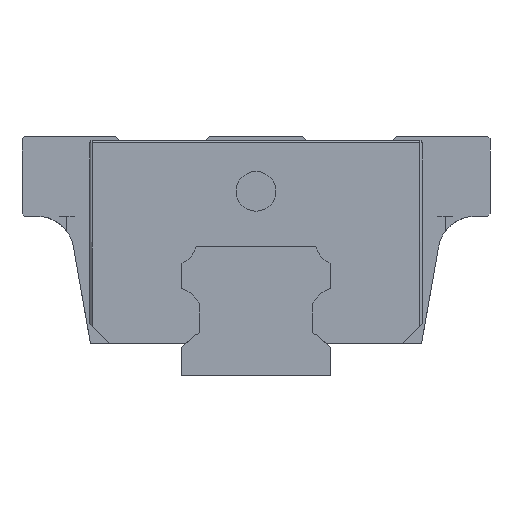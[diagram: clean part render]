
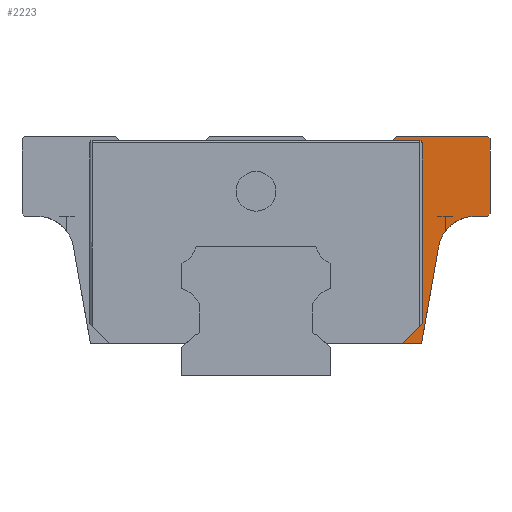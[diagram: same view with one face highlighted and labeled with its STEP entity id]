
A CAD part, left-side view. The second image highlights one B-rep face of the part: STEP entity #2223.
In plain terms, the highlighted planar face has unit normal (-1, 0, 0).
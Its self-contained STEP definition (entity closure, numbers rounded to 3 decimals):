
#18 = EDGE_LOOP ( 'NONE', ( #2985, #5926, #4635, #1695, #5968, #5238, #813, #5231, #3556, #534, #2093, #1875, #4736 ) ) ;
#209 = DIRECTION ( 'NONE',  ( 0., 0., 1. ) ) ;
#270 = LINE ( 'NONE', #1292, #6627 ) ;
#302 = DIRECTION ( 'NONE',  ( 0., 0., 1. ) ) ;
#371 = LINE ( 'NONE', #7058, #3625 ) ;
#534 = ORIENTED_EDGE ( 'NONE', *, *, #5914, .T. ) ;
#540 = DIRECTION ( 'NONE',  ( 0., 0., 1. ) ) ;
#640 = CARTESIAN_POINT ( 'NONE',  ( -19.75, -23.5, 23.765 ) ) ;
#665 = VECTOR ( 'NONE', #1503, 1000. ) ;
#740 = VERTEX_POINT ( 'NONE', #2507 ) ;
#751 = VERTEX_POINT ( 'NONE', #6444 ) ;
#812 = PLANE ( 'NONE',  #6141 ) ;
#813 = ORIENTED_EDGE ( 'NONE', *, *, #5044, .T. ) ;
#1048 = VERTEX_POINT ( 'NONE', #5688 ) ;
#1057 = CARTESIAN_POINT ( 'NONE',  ( -19.75, -22.022, 16. ) ) ;
#1079 = DIRECTION ( 'NONE',  ( 0., -0.707, 0.707 ) ) ;
#1136 = VERTEX_POINT ( 'NONE', #6137 ) ;
#1151 = LINE ( 'NONE', #2736, #5972 ) ;
#1166 = VECTOR ( 'NONE', #209, 1000. ) ;
#1262 = DIRECTION ( 'NONE',  ( 0., 0., 1. ) ) ;
#1292 = CARTESIAN_POINT ( 'NONE',  ( -19.75, -8.619, 3.2 ) ) ;
#1369 = CARTESIAN_POINT ( 'NONE',  ( -19.75, -23.5, 24. ) ) ;
#1431 = LINE ( 'NONE', #3675, #3746 ) ;
#1485 = CARTESIAN_POINT ( 'NONE',  ( -19.75, -14.1, 24. ) ) ;
#1503 = DIRECTION ( 'NONE',  ( 0., -0.707, 0.707 ) ) ;
#1539 = CARTESIAN_POINT ( 'NONE',  ( -19.75, -14.696, 3.2 ) ) ;
#1695 = ORIENTED_EDGE ( 'NONE', *, *, #2587, .T. ) ;
#1873 = CARTESIAN_POINT ( 'NONE',  ( -19.75, -6.712, 3.2 ) ) ;
#1875 = ORIENTED_EDGE ( 'NONE', *, *, #5369, .T. ) ;
#1882 = DIRECTION ( 'NONE',  ( 1., 0., 0. ) ) ;
#1987 = CARTESIAN_POINT ( 'NONE',  ( -19.75, -16.619, 3.2 ) ) ;
#2042 = CARTESIAN_POINT ( 'NONE',  ( -19.75, -16.619, 3.2 ) ) ;
#2093 = ORIENTED_EDGE ( 'NONE', *, *, #2716, .F. ) ;
#2223 = ADVANCED_FACE ( 'NONE', ( #6949 ), #812, .T. ) ;
#2330 = AXIS2_PLACEMENT_3D ( 'NONE', #2943, #1882, #1262 ) ;
#2340 = LINE ( 'NONE', #4614, #1166 ) ;
#2507 = CARTESIAN_POINT ( 'NONE',  ( -19.75, -18.329, 12.901 ) ) ;
#2574 = VECTOR ( 'NONE', #3608, 1000. ) ;
#2587 = EDGE_CURVE ( 'NONE', #740, #3348, #3539, .T. ) ;
#2683 = CARTESIAN_POINT ( 'NONE',  ( -19.75, -23.265, 16. ) ) ;
#2716 = EDGE_CURVE ( 'NONE', #1048, #4905, #7227, .T. ) ;
#2736 = CARTESIAN_POINT ( 'NONE',  ( -19.75, -8.589, 1.324 ) ) ;
#2754 = DIRECTION ( 'NONE',  ( 0., -0.174, 0.985 ) ) ;
#2766 = LINE ( 'NONE', #4385, #6343 ) ;
#2943 = CARTESIAN_POINT ( 'NONE',  ( -19.75, -16.466, 23.355 ) ) ;
#2944 = DIRECTION ( 'NONE',  ( 0., 0., 1. ) ) ;
#2985 = ORIENTED_EDGE ( 'NONE', *, *, #3347, .F. ) ;
#3166 = VERTEX_POINT ( 'NONE', #1987 ) ;
#3270 = VERTEX_POINT ( 'NONE', #2683 ) ;
#3284 = CARTESIAN_POINT ( 'NONE',  ( -19.75, -23.265, 24. ) ) ;
#3347 = EDGE_CURVE ( 'NONE', #3693, #1136, #3854, .T. ) ;
#3348 = VERTEX_POINT ( 'NONE', #1057 ) ;
#3492 = DIRECTION ( 'NONE',  ( 0., -1., 0. ) ) ;
#3539 = CIRCLE ( 'NONE', #3667, 3.75 ) ;
#3556 = ORIENTED_EDGE ( 'NONE', *, *, #5653, .T. ) ;
#3608 = DIRECTION ( 'NONE',  ( 0., 1., 0. ) ) ;
#3625 = VECTOR ( 'NONE', #3747, 1000. ) ;
#3667 = AXIS2_PLACEMENT_3D ( 'NONE', #5560, #4464, #540 ) ;
#3675 = CARTESIAN_POINT ( 'NONE',  ( -19.75, -14.1, 24. ) ) ;
#3693 = VERTEX_POINT ( 'NONE', #4280 ) ;
#3746 = VECTOR ( 'NONE', #6868, 1000. ) ;
#3747 = DIRECTION ( 'NONE',  ( 0., -1., 0. ) ) ;
#3854 = LINE ( 'NONE', #1539, #665 ) ;
#3913 = CARTESIAN_POINT ( 'NONE',  ( -19.75, -16.971, 23.59 ) ) ;
#3946 = VERTEX_POINT ( 'NONE', #1485 ) ;
#4157 = LINE ( 'NONE', #1369, #2574 ) ;
#4280 = CARTESIAN_POINT ( 'NONE',  ( -19.75, -14.696, 3.2 ) ) ;
#4299 = EDGE_CURVE ( 'NONE', #3693, #3166, #270, .T. ) ;
#4321 = CIRCLE ( 'NONE', #2330, 0.235 ) ;
#4385 = CARTESIAN_POINT ( 'NONE',  ( -19.75, -25.389, 21.876 ) ) ;
#4464 = DIRECTION ( 'NONE',  ( 1., 0., 0. ) ) ;
#4572 = LINE ( 'NONE', #4675, #5966 ) ;
#4614 = CARTESIAN_POINT ( 'NONE',  ( -19.75, -23.5, 16. ) ) ;
#4635 = ORIENTED_EDGE ( 'NONE', *, *, #5534, .T. ) ;
#4675 = CARTESIAN_POINT ( 'NONE',  ( -19.75, -16.701, 5.2 ) ) ;
#4736 = ORIENTED_EDGE ( 'NONE', *, *, #6642, .F. ) ;
#4771 = DIRECTION ( 'NONE',  ( -1., 0., 0. ) ) ;
#4905 = VERTEX_POINT ( 'NONE', #6199 ) ;
#4974 = VERTEX_POINT ( 'NONE', #5713 ) ;
#5044 = EDGE_CURVE ( 'NONE', #751, #6536, #2340, .T. ) ;
#5133 = VECTOR ( 'NONE', #2754, 1000. ) ;
#5231 = ORIENTED_EDGE ( 'NONE', *, *, #7125, .T. ) ;
#5238 = ORIENTED_EDGE ( 'NONE', *, *, #6504, .T. ) ;
#5245 = VERTEX_POINT ( 'NONE', #3284 ) ;
#5369 = EDGE_CURVE ( 'NONE', #1048, #4974, #4321, .T. ) ;
#5375 = LINE ( 'NONE', #2042, #5133 ) ;
#5534 = EDGE_CURVE ( 'NONE', #3166, #740, #5375, .T. ) ;
#5560 = CARTESIAN_POINT ( 'NONE',  ( -19.75, -22.022, 12.25 ) ) ;
#5653 = EDGE_CURVE ( 'NONE', #5245, #3946, #4157, .T. ) ;
#5688 = CARTESIAN_POINT ( 'NONE',  ( -19.75, -16.466, 23.59 ) ) ;
#5706 = VECTOR ( 'NONE', #6124, 1000. ) ;
#5713 = CARTESIAN_POINT ( 'NONE',  ( -19.75, -16.701, 23.355 ) ) ;
#5914 = EDGE_CURVE ( 'NONE', #3946, #4905, #1431, .T. ) ;
#5926 = ORIENTED_EDGE ( 'NONE', *, *, #4299, .T. ) ;
#5966 = VECTOR ( 'NONE', #2944, 1000. ) ;
#5968 = ORIENTED_EDGE ( 'NONE', *, *, #6000, .T. ) ;
#5972 = VECTOR ( 'NONE', #1079, 1000. ) ;
#6000 = EDGE_CURVE ( 'NONE', #3348, #3270, #371, .T. ) ;
#6124 = DIRECTION ( 'NONE',  ( 0., 1., 0. ) ) ;
#6137 = CARTESIAN_POINT ( 'NONE',  ( -19.75, -16.701, 5.203 ) ) ;
#6141 = AXIS2_PLACEMENT_3D ( 'NONE', #1873, #4771, #302 ) ;
#6199 = CARTESIAN_POINT ( 'NONE',  ( -19.75, -13.756, 23.59 ) ) ;
#6343 = VECTOR ( 'NONE', #6706, 1000. ) ;
#6444 = CARTESIAN_POINT ( 'NONE',  ( -19.75, -23.5, 16.235 ) ) ;
#6504 = EDGE_CURVE ( 'NONE', #3270, #751, #1151, .T. ) ;
#6536 = VERTEX_POINT ( 'NONE', #640 ) ;
#6627 = VECTOR ( 'NONE', #3492, 1000. ) ;
#6642 = EDGE_CURVE ( 'NONE', #1136, #4974, #4572, .T. ) ;
#6706 = DIRECTION ( 'NONE',  ( 0., 0.707, 0.707 ) ) ;
#6868 = DIRECTION ( 'NONE',  ( 0., 0.643, -0.766 ) ) ;
#6949 = FACE_OUTER_BOUND ( 'NONE', #18, .T. ) ;
#7058 = CARTESIAN_POINT ( 'NONE',  ( -19.75, -18.876, 16. ) ) ;
#7125 = EDGE_CURVE ( 'NONE', #6536, #5245, #2766, .T. ) ;
#7227 = LINE ( 'NONE', #3913, #5706 ) ;
